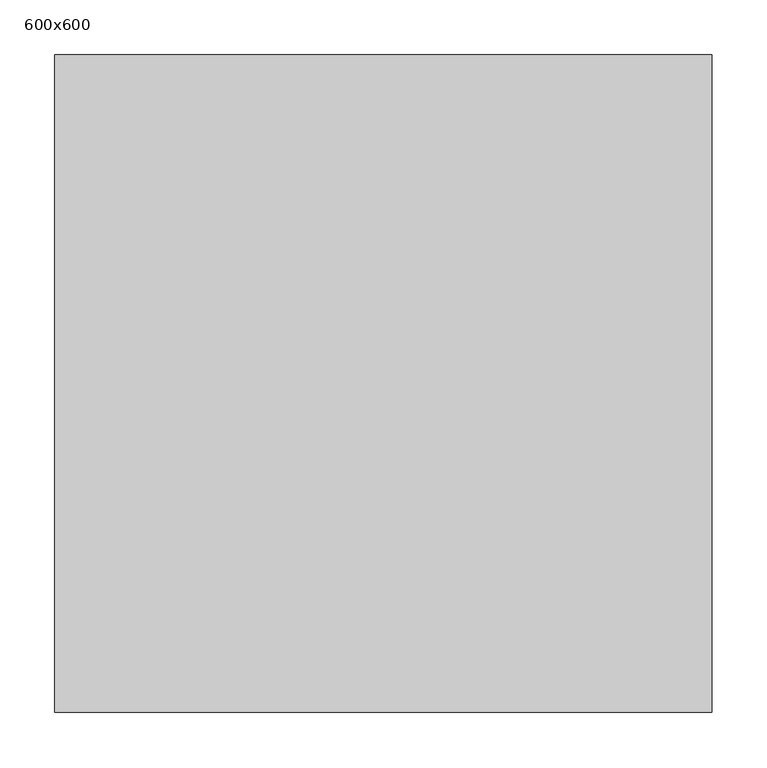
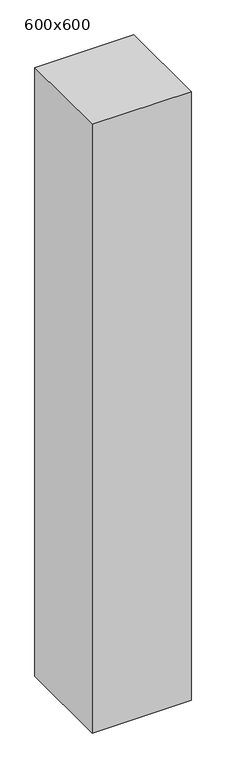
"""IFC4 building model written with IfcOpenShell, lengths in millimetres: column geometry, 混凝土 - 矩形 - 柱 : 600x600."""

from ifc_helpers import new_model, si_unit, frame, origin, place, context, project, spatial, polyline, outline, extrude, source, transform, mapped, element, save


def column_600x600_242b05fc(model_context):
    return source(origin(), model_context, "Body", "SweptSolid", [
        extrude(outline(polyline([(300.0, 300.0), (300.0, -300.0), (-300.0, -300.0), (-300.0, 300.0), (300.0, 300.0)])), frame((0.0, 0.0, 14900.0), z_axis=(0.0, 0.0, 1.0), x_axis=(1.0, 0.0, 0.0)), (0.0, 0.0, 1.0), 3900.0),
    ])


if __name__ == "__main__":
    model = new_model("IFC4")
    model_context = context("Model", 3, world=origin())
    ifc_project = project(units=[si_unit("LENGTHUNIT", "METRE", prefix="MILLI")], contexts=[model_context])
    site = spatial("IfcSite", under=ifc_project)
    building = spatial("IfcBuilding", under=site)
    placement = place(None, origin())
    column_600x600_shape = column_600x600_242b05fc(model_context)
    element("IfcColumn", 1, ObjectType="混凝土 - 矩形 - 柱 : 600x600", at=placement, inside=building, context=model_context, shape_type="MappedRepresentation", body=[
        mapped(column_600x600_shape, transform((0.0, 0.0, 0.0), x_axis=(1.0, 0.0, 0.0), y_axis=(0.0, 1.0, 0.0), z_axis=(0.0, 0.0, 1.0))),
    ])
    save(model, "model.ifc")
